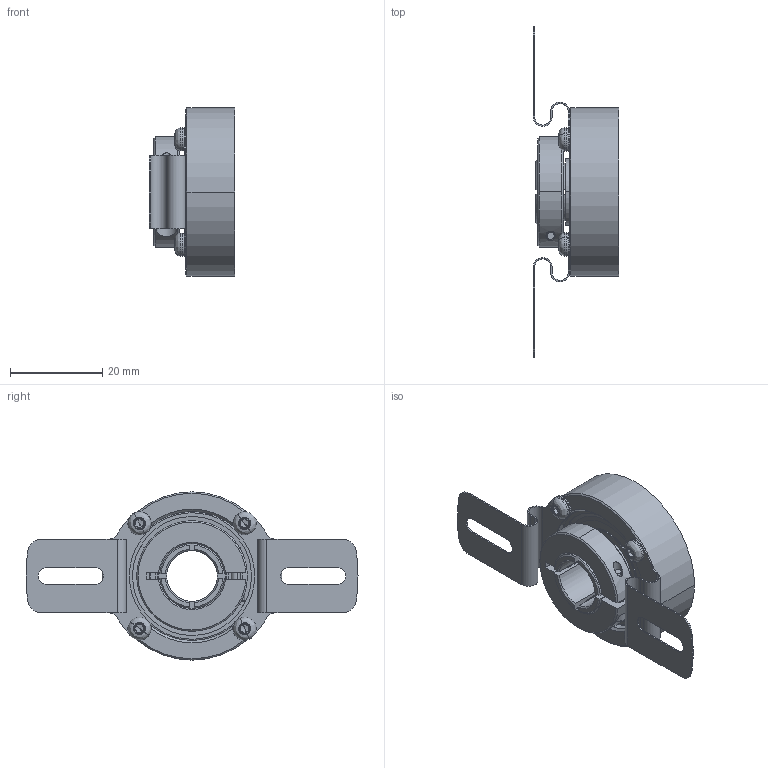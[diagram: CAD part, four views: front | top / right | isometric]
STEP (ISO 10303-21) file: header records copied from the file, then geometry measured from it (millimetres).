
FILE_DESCRIPTION (( 'STEP AP214' ), '1' );
FILE_NAME ('drawing-ucd-vbb0-q3a-n.STEP', '2017-01-19T16:24:08', ( '' ), ( '' ), 'SwSTEP 2.0', 'SolidWorks 2015', '' );
FILE_SCHEMA (( 'AUTOMOTIVE_DESIGN' ));
Length unit declared in the file: millimetre
Products named in the file (1): drawing-ucd-vbb0-q3a-n
Bounding box: 18.5 x 72 x 36.5 mm (x, y, z)
Volume: 9860.2 mm3; surface area: 14518.2 mm2
Topology: 27 solids, 27 shells, 567 faces, 1413 edges, 842 vertices
Faces by surface type: cylinder 183, cone 142, plane 134, bspline 104, torus 4
Entity records: 25865 total; most frequent: CARTESIAN_POINT 6480, DIRECTION 2754, ORIENTED_EDGE 2662, EDGE_CURVE 1331, AXIS2_PLACEMENT_3D 1166, VERTEX_POINT 842, CIRCLE 702, EDGE_LOOP 625
